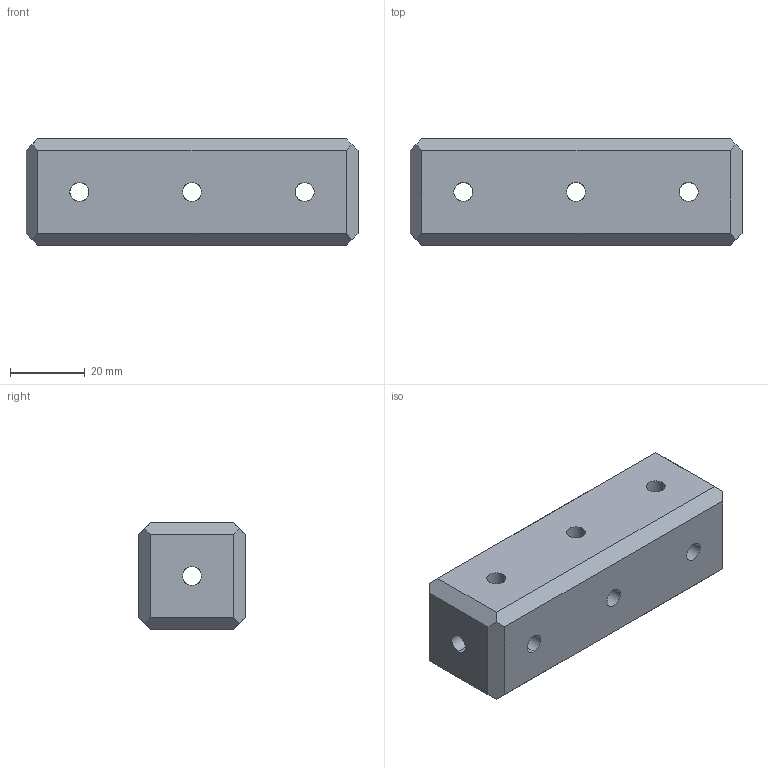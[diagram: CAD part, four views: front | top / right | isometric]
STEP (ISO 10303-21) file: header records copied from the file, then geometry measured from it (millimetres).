
FILE_DESCRIPTION (( 'STEP AP214' ), '1' );
FILE_NAME ('DRP-002-0549-00.STEP', '2013-12-20T17:30:34', ( 'ydmin' ), ( 'Microsoft' ), 'SwSTEP 2.0', 'SolidWorks 2013', '' );
FILE_SCHEMA (( 'AUTOMOTIVE_DESIGN' ));
Length unit declared in the file: inch
Products named in the file (1): DRP-002-0549-00
Bounding box: 88.9 x 28.57 x 28.57 mm (x, y, z)
Volume: 65071.9 mm3; surface area: 13918.8 mm2
Topology: 1 solids, 1 shells, 50 faces, 168 edges, 108 vertices
Faces by surface type: cylinder 32, plane 18
Entity records: 2546 total; most frequent: CARTESIAN_POINT 507, ORIENTED_EDGE 336, DIRECTION 238, EDGE_CURVE 168, VERTEX_POINT 108, LINE 80, VECTOR 80, AXIS2_PLACEMENT_3D 79
